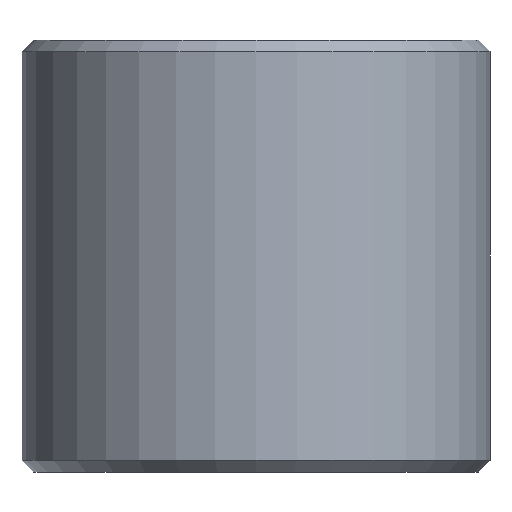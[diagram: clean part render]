
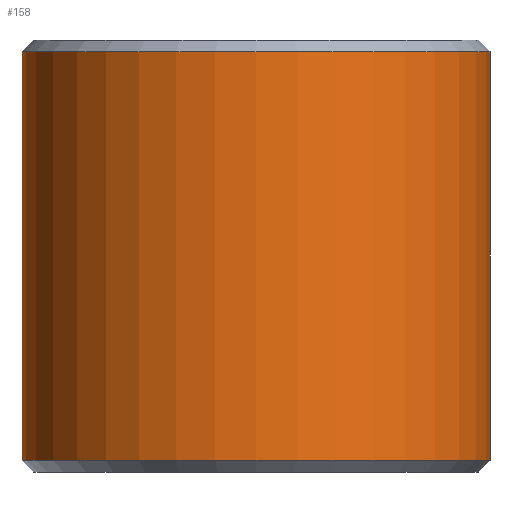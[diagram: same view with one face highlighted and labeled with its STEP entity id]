
A CAD part, front view. The second image highlights one B-rep face of the part: STEP entity #158.
In plain terms, the highlighted cylindrical face has radius 13 mm (diameter 26 mm), a partial arc.
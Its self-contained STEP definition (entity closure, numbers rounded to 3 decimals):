
#11 = AXIS2_PLACEMENT_3D ( 'NONE', #436, #119, #294 ) ;
#36 = CIRCLE ( 'NONE', #123, 13. ) ;
#38 = ORIENTED_EDGE ( 'NONE', *, *, #177, .T. ) ;
#41 = ORIENTED_EDGE ( 'NONE', *, *, #279, .T. ) ;
#54 = LINE ( 'NONE', #56, #312 ) ;
#56 = CARTESIAN_POINT ( 'NONE',  ( -13., 0., 12. ) ) ;
#100 = DIRECTION ( 'NONE',  ( 1., 0., 0. ) ) ;
#102 = VERTEX_POINT ( 'NONE', #247 ) ;
#109 = CARTESIAN_POINT ( 'NONE',  ( 13., 0., 11.35 ) ) ;
#118 = CARTESIAN_POINT ( 'NONE',  ( 0., 0., 11.35 ) ) ;
#119 = DIRECTION ( 'NONE',  ( 0., 0., -1. ) ) ;
#123 = AXIS2_PLACEMENT_3D ( 'NONE', #118, #259, #397 ) ;
#133 = LINE ( 'NONE', #374, #144 ) ;
#134 = ORIENTED_EDGE ( 'NONE', *, *, #286, .T. ) ;
#138 = EDGE_LOOP ( 'NONE', ( #274, #41, #38, #134 ) ) ;
#140 = VERTEX_POINT ( 'NONE', #109 ) ;
#144 = VECTOR ( 'NONE', #415, 1000. ) ;
#153 = CARTESIAN_POINT ( 'NONE',  ( 0., 0., -11.35 ) ) ;
#158 = ADVANCED_FACE ( 'NONE', ( #362 ), #221, .T. ) ;
#177 = EDGE_CURVE ( 'NONE', #102, #373, #54, .T. ) ;
#197 = DIRECTION ( 'NONE',  ( 0., 0., 1. ) ) ;
#221 = CYLINDRICAL_SURFACE ( 'NONE', #11, 13. ) ;
#247 = CARTESIAN_POINT ( 'NONE',  ( -13., 0., 11.35 ) ) ;
#259 = DIRECTION ( 'NONE',  ( 0., 0., -1. ) ) ;
#266 = DIRECTION ( 'NONE',  ( 0., 0., -1. ) ) ;
#274 = ORIENTED_EDGE ( 'NONE', *, *, #360, .F. ) ;
#279 = EDGE_CURVE ( 'NONE', #140, #102, #36, .T. ) ;
#286 = EDGE_CURVE ( 'NONE', #373, #339, #340, .T. ) ;
#294 = DIRECTION ( 'NONE',  ( -1., 0., 0. ) ) ;
#303 = CARTESIAN_POINT ( 'NONE',  ( 13., 0., -11.35 ) ) ;
#312 = VECTOR ( 'NONE', #266, 1000. ) ;
#339 = VERTEX_POINT ( 'NONE', #303 ) ;
#340 = CIRCLE ( 'NONE', #403, 13. ) ;
#360 = EDGE_CURVE ( 'NONE', #140, #339, #133, .T. ) ;
#362 = FACE_OUTER_BOUND ( 'NONE', #138, .T. ) ;
#373 = VERTEX_POINT ( 'NONE', #412 ) ;
#374 = CARTESIAN_POINT ( 'NONE',  ( 13., 0., 12. ) ) ;
#397 = DIRECTION ( 'NONE',  ( 1., 0., 0. ) ) ;
#403 = AXIS2_PLACEMENT_3D ( 'NONE', #153, #197, #100 ) ;
#412 = CARTESIAN_POINT ( 'NONE',  ( -13., 0., -11.35 ) ) ;
#415 = DIRECTION ( 'NONE',  ( 0., 0., -1. ) ) ;
#436 = CARTESIAN_POINT ( 'NONE',  ( 0., 0., 12. ) ) ;
